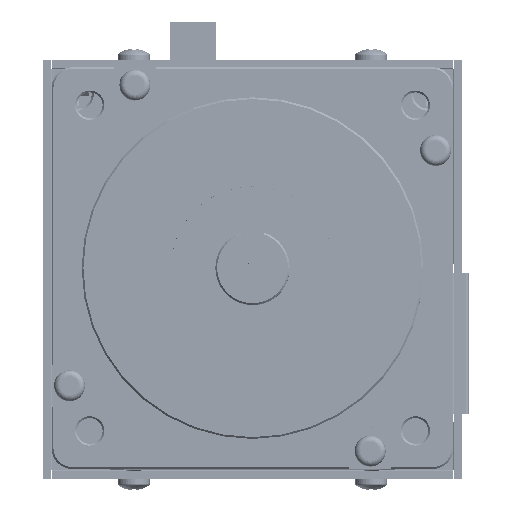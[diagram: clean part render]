
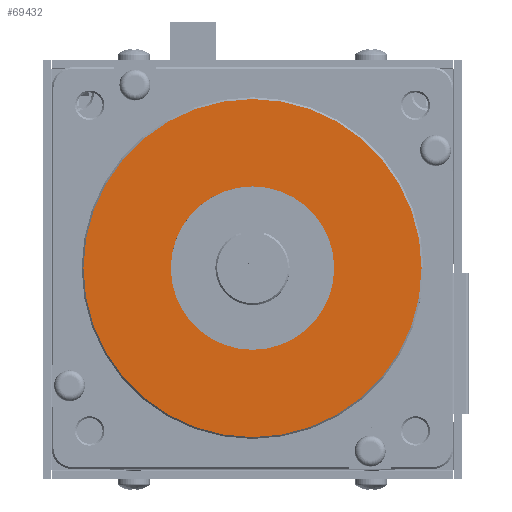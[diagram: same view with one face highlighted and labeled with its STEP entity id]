
A CAD part, top view. The second image highlights one B-rep face of the part: STEP entity #69432.
In plain terms, the highlighted planar face has unit normal (0, 0, 1).
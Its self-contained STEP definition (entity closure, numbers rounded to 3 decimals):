
#14344 = CARTESIAN_POINT ( 'NONE',  ( 36.132, 0., 1.524 ) ) ;
#23418 = AXIS2_PLACEMENT_3D ( 'NONE', #218928, #101478, #238563 ) ;
#29362 = PLANE ( 'NONE',  #39148 ) ;
#34371 = CARTESIAN_POINT ( 'NONE',  ( -17.462, 0., 1.524 ) ) ;
#36069 = EDGE_CURVE ( 'NONE', #55321, #56828, #101538, .T. ) ;
#39148 = AXIS2_PLACEMENT_3D ( 'NONE', #244507, #166504, #49091 ) ;
#42273 = EDGE_LOOP ( 'NONE', ( #82620, #203519 ) ) ;
#49091 = DIRECTION ( 'NONE',  ( 1., 0., 0. ) ) ;
#55321 = VERTEX_POINT ( 'NONE', #34371 ) ;
#56828 = VERTEX_POINT ( 'NONE', #228938 ) ;
#62226 = CARTESIAN_POINT ( 'NONE',  ( 0., 0., 1.524 ) ) ;
#69432 = ADVANCED_FACE ( 'NONE', ( #192358, #146347 ), #29362, .T. ) ;
#70004 = AXIS2_PLACEMENT_3D ( 'NONE', #231963, #114542, #251678 ) ;
#70489 = CIRCLE ( 'NONE', #249369, 36.132 ) ;
#81991 = DIRECTION ( 'NONE',  ( 1., 0., 0. ) ) ;
#82620 = ORIENTED_EDGE ( 'NONE', *, *, #175407, .T. ) ;
#85562 = CARTESIAN_POINT ( 'NONE',  ( -36.132, 0., 1.524 ) ) ;
#101478 = DIRECTION ( 'NONE',  ( 0., 0., 1. ) ) ;
#101538 = CIRCLE ( 'NONE', #23418, 17.462 ) ;
#107562 = CARTESIAN_POINT ( 'NONE',  ( 0., 0., 1.524 ) ) ;
#114542 = DIRECTION ( 'NONE',  ( 0., 0., 1. ) ) ;
#127210 = DIRECTION ( 'NONE',  ( 1., 0., 0. ) ) ;
#130310 = EDGE_LOOP ( 'NONE', ( #169823, #207766 ) ) ;
#146347 = FACE_BOUND ( 'NONE', #130310, .T. ) ;
#152540 = EDGE_CURVE ( 'NONE', #56828, #55321, #242142, .T. ) ;
#166504 = DIRECTION ( 'NONE',  ( 0., 0., 1. ) ) ;
#169823 = ORIENTED_EDGE ( 'NONE', *, *, #36069, .F. ) ;
#175407 = EDGE_CURVE ( 'NONE', #212892, #208281, #244266, .T. ) ;
#179214 = AXIS2_PLACEMENT_3D ( 'NONE', #107562, #244709, #127210 ) ;
#192358 = FACE_OUTER_BOUND ( 'NONE', #42273, .T. ) ;
#199365 = DIRECTION ( 'NONE',  ( 0., 0., 1. ) ) ;
#203519 = ORIENTED_EDGE ( 'NONE', *, *, #210030, .T. ) ;
#207766 = ORIENTED_EDGE ( 'NONE', *, *, #152540, .F. ) ;
#208281 = VERTEX_POINT ( 'NONE', #14344 ) ;
#210030 = EDGE_CURVE ( 'NONE', #208281, #212892, #70489, .T. ) ;
#212892 = VERTEX_POINT ( 'NONE', #85562 ) ;
#218928 = CARTESIAN_POINT ( 'NONE',  ( 0., 0., 1.524 ) ) ;
#228938 = CARTESIAN_POINT ( 'NONE',  ( 17.462, 0., 1.524 ) ) ;
#231963 = CARTESIAN_POINT ( 'NONE',  ( 0., 0., 1.524 ) ) ;
#238563 = DIRECTION ( 'NONE',  ( 1., 0., 0. ) ) ;
#242142 = CIRCLE ( 'NONE', #179214, 17.462 ) ;
#244266 = CIRCLE ( 'NONE', #70004, 36.132 ) ;
#244507 = CARTESIAN_POINT ( 'NONE',  ( 0., 0., 1.524 ) ) ;
#244709 = DIRECTION ( 'NONE',  ( 0., 0., 1. ) ) ;
#249369 = AXIS2_PLACEMENT_3D ( 'NONE', #62226, #199365, #81991 ) ;
#251678 = DIRECTION ( 'NONE',  ( 1., 0., 0. ) ) ;
